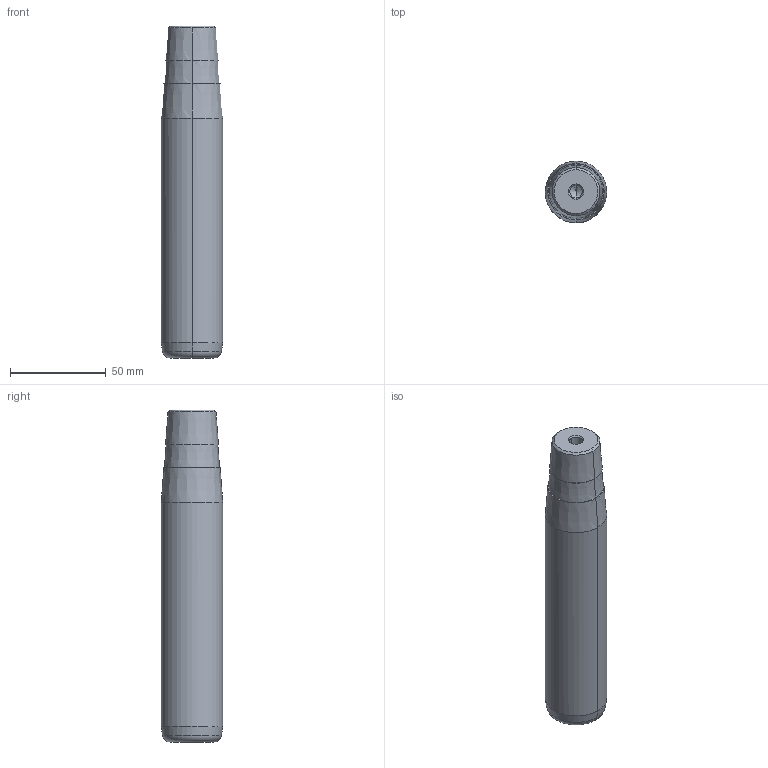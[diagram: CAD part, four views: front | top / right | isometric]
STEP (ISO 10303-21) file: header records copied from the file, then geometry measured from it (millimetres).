
FILE_DESCRIPTION(('CATIA V5 STEP Exchange'),'2;1');
FILE_NAME('C:\Users\Utente\Desktop\IO LAVORO\3D X SITO CF\X SITO\722\722-32x140x173.stp','2021-01-08T16:12:33+00:00',('none'),('none'),'CATIA Version 5 Release 20 GA (IN-10)','CATIA V5 STEP AP203','none');
FILE_SCHEMA(('CONFIG_CONTROL_DESIGN'));
Length unit declared in the file: millimetre
Products named in the file (1): 722-32x140x173
Bounding box: 32 x 32 x 173 mm (x, y, z)
Volume: 128223.8 mm3; surface area: 18966.5 mm2
Topology: 1 solids, 1 shells, 32 faces, 98 edges, 66 vertices
Faces by surface type: cone 22, cylinder 6, plane 2, torus 2
Entity records: 1166 total; most frequent: CARTESIAN_POINT 279, ORIENTED_EDGE 188, DIRECTION 148, EDGE_CURVE 94, AXIS2_PLACEMENT_3D 89, VERTEX_POINT 66, CIRCLE 56, EDGE_LOOP 34
